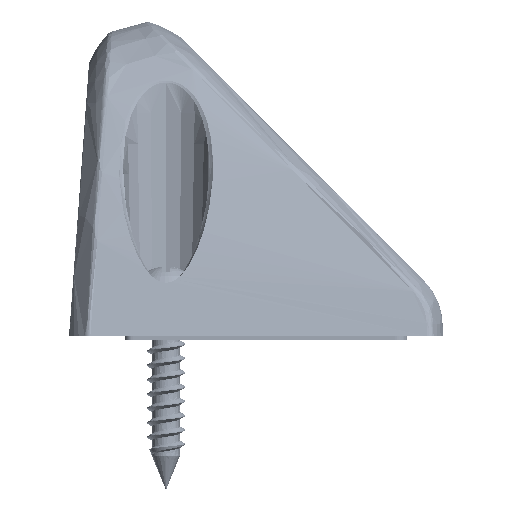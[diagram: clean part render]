
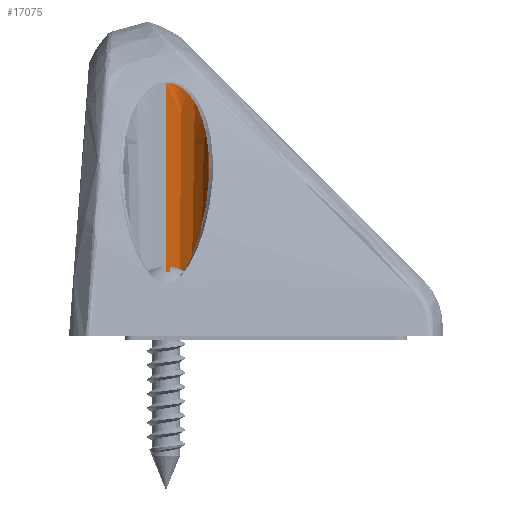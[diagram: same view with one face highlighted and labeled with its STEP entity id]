
A CAD part, left-side view. The second image highlights one B-rep face of the part: STEP entity #17075.
In plain terms, the highlighted conical face has half-angle 1.5 degrees and reference radius 5.352 mm.
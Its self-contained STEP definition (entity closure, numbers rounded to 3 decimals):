
#1134=CARTESIAN_POINT('',(-61.295,-36.299,
13.949));
#1135=CARTESIAN_POINT('',(-61.295,-36.296,
13.689));
#1136=CARTESIAN_POINT('',(-61.332,-36.236,
13.151));
#1137=CARTESIAN_POINT('',(-61.527,-35.891,
12.294));
#1138=CARTESIAN_POINT('',(-61.867,-35.289,
11.467));
#1139=CARTESIAN_POINT('',(-62.336,-34.443,
10.709));
#1140=CARTESIAN_POINT('',(-62.917,-33.369,
10.042));
#1141=CARTESIAN_POINT('',(-63.599,-32.074,
9.478));
#1142=CARTESIAN_POINT('',(-64.372,-30.558,
9.028));
#1143=CARTESIAN_POINT('',(-65.228,-28.81,
8.707));
#1144=CARTESIAN_POINT('',(-66.157,-26.828,
8.528));
#1145=CARTESIAN_POINT('',(-67.167,-24.55,
8.526));
#1146=CARTESIAN_POINT('',(-68.034,-22.48,
8.687));
#1147=CARTESIAN_POINT('',(-68.753,-20.674,
8.935));
#1148=CARTESIAN_POINT('',(-69.365,-19.066,
9.243));
#1149=CARTESIAN_POINT('',(-69.888,-17.634,
9.592));
#1150=CARTESIAN_POINT('',(-70.337,-16.355,
9.971));
#1151=CARTESIAN_POINT('',(-70.725,-15.213,
10.376));
#1152=CARTESIAN_POINT('',(-71.06,-14.196,
10.806));
#1153=CARTESIAN_POINT('',(-71.346,-13.301,
11.26));
#1154=CARTESIAN_POINT('',(-71.587,-12.529,
11.741));
#1155=CARTESIAN_POINT('',(-71.783,-11.888,
12.252));
#1156=CARTESIAN_POINT('',(-71.932,-11.392,
12.804));
#1157=CARTESIAN_POINT('',(-72.022,-11.086,
13.378));
#1158=CARTESIAN_POINT('',(-72.042,-11.017,
13.759));
#1159=CARTESIAN_POINT('',(-72.042,-11.019,
13.949));
#1161=DIRECTION('',(-0.026,-1.,0.));
#1162=VECTOR('',#1161,1.617);
#1163=CARTESIAN_POINT('',(-72.,-9.402,
13.949));
#1164=LINE('',#1163,#1162);
#1165=CARTESIAN_POINT('',(-67.,-9.402,
13.949));
#1166=DIRECTION('',(0.,1.,0.));
#1167=DIRECTION('',(1.,0.,0.));
#1168=AXIS2_PLACEMENT_3D('',#1165,#1166,#1167);
#1170=DIRECTION('',(-0.026,1.,0.));
#1171=VECTOR('',#1170,26.906);
#1172=CARTESIAN_POINT('',(-61.295,-36.299,
13.949));
#1173=LINE('',#1172,#1171);
#14559=CARTESIAN_POINT('',(-72.,-9.402,
13.949));
#14560=CARTESIAN_POINT('',(-62.,-9.402,
13.949));
#14561=VERTEX_POINT('',#14559);
#14562=VERTEX_POINT('',#14560);
#14655=VERTEX_POINT('',#1134);
#14656=VERTEX_POINT('',#1159);
#17064=CARTESIAN_POINT('',(-67.,-22.85,
13.949));
#17065=DIRECTION('',(0.,-1.,0.));
#17066=DIRECTION('',(-1.,0.,0.));
#17067=AXIS2_PLACEMENT_3D('',#17064,#17065,#17066);
#17068=CONICAL_SURFACE('',#17067,5.352,1.5);
#17069=ORIENTED_EDGE('',*,*,#17058,.T.);
#17070=ORIENTED_EDGE('',*,*,#16783,.F.);
#17071=ORIENTED_EDGE('',*,*,#16755,.F.);
#17072=ORIENTED_EDGE('',*,*,#16780,.F.);
#17073=EDGE_LOOP('',(#17069,#17070,#17071,#17072));
#17074=FACE_OUTER_BOUND('',#17073,.F.);
#17075=ADVANCED_FACE('',(#17074),#17068,.F.);
#1160=B_SPLINE_CURVE_WITH_KNOTS('',3,(#1134,#1135,#1136,#1137,#1138,#1139,#1140,
#1141,#1142,#1143,#1144,#1145,#1146,#1147,#1148,#1149,#1150,#1151,#1152,#1153,
#1154,#1155,#1156,#1157,#1158,#1159),.UNSPECIFIED.,.F.,.F.,(4,1,1,1,1,1,1,1,1,1,
1,1,1,1,1,1,1,1,1,1,1,1,1,4),(0.,0.043,0.087,
0.13,0.174,0.217,0.261,
0.304,0.348,0.391,0.435,
0.478,0.522,0.565,0.609,
0.652,0.696,0.739,0.783,
0.826,0.87,0.913,0.957,1.),
.UNSPECIFIED.);
#1169=CIRCLE('',#1168,5.);
#16755=EDGE_CURVE('',#14562,#14561,#1169,.T.);
#16780=EDGE_CURVE('',#14655,#14562,#1173,.T.);
#16783=EDGE_CURVE('',#14561,#14656,#1164,.T.);
#17058=EDGE_CURVE('',#14655,#14656,#1160,.T.);
